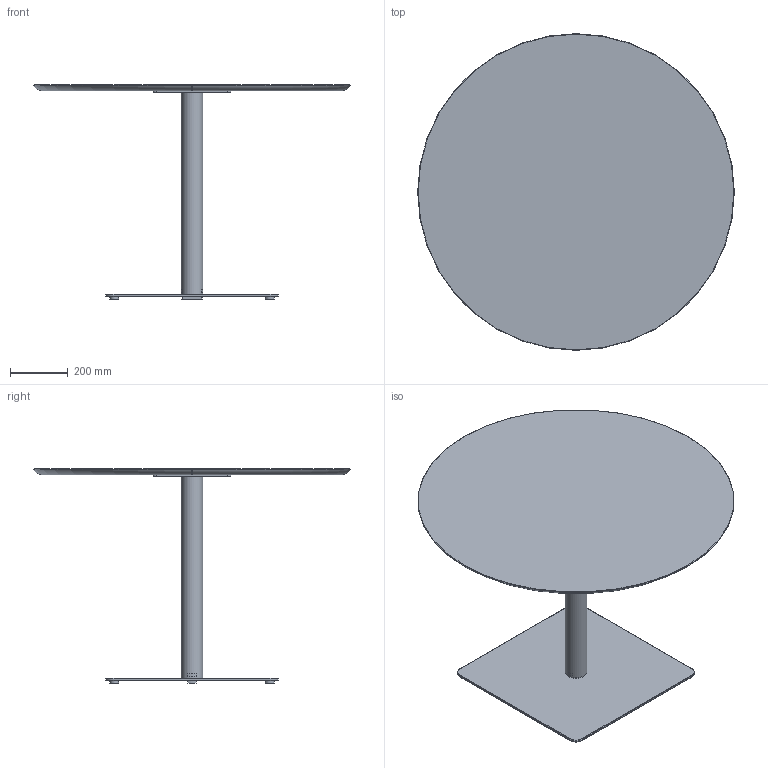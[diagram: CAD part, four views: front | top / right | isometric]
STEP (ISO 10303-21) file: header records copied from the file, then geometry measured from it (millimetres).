
FILE_DESCRIPTION( ('This file contains a STEP AP42 implementation' ,'as created by ZW3D STEP Interface translator.') ,'2;1' );
FILE_NAME( 'Henri - B_Carré - F1 - M3 - 1100 x 1100 x 750.stp' ,'24 912.162224', (''), ('ZWCAD Software Co.'), 'Version 1.0', 'ZW3D to STEP translator', '' );
FILE_SCHEMA(('AUTOMOTIVE_DESIGN { 1 0 10303 214 1 1 1 1 }'));
Length unit declared in the file: millimetre
Products named in the file (14): 0; PIED BISTROT PARAMETRIQUE_; COLONNE ACIER Ø76 V.02_; TUB-D076-02_; PLA-R76B-01_; CROIX ACIER 370 V.02_; CRX-X370-02_; SOCLE ACIER L 600x600 V.02_; SCL-R600-02_; PLA-R30A-01_; PLA-R30A-01; WUERTH 0276063020 Euro-screw 6.3x2 Verzinkt_; PLATEAU BISTROT PARAMETRIQUE_; insert_m6_13_
Assembly tree (22 placements, depth 3):
  0
  PIED BISTROT PARAMETRIQUE_
    COLONNE ACIER Ø76 V.02_
      TUB-D076-02_
      PLA-R76B-01_  x2
    CROIX ACIER 370 V.02_
      CRX-X370-02_
    SOCLE ACIER L 600x600 V.02_
      SCL-R600-02_
      PLA-R30A-01_
      PLA-R30A-01  x3
    WUERTH 0276063020 Euro-screw 6.3x2 Verzinkt_
    PLATEAU BISTROT PARAMETRIQUE_
      insert_m6_13_  x8
Bounding box: 1100 x 1100 x 744 mm (x, y, z)
Volume: 22295844.7 mm3; surface area: 3185026.7 mm2
Topology: 19 solids, 19 shells, 537 faces, 1310 edges, 822 vertices
Faces by surface type: plane 258, bspline 121, cylinder 102, cone 51, torus 5
Full cylindrical faces by diameter (mm): 4.88 x1, 6 x8, 6.3 x1, 8 x45, 12 x2, 14 x2, 30 x4, 72 x1, 76 x1
Entity records: 12318 total; most frequent: CARTESIAN_POINT 3396, ORIENTED_EDGE 1624, DIRECTION 1527, EDGE_CURVE 812, VERTEX_POINT 518, AXIS2_PLACEMENT_3D 511, VECTOR 505, LINE 505
